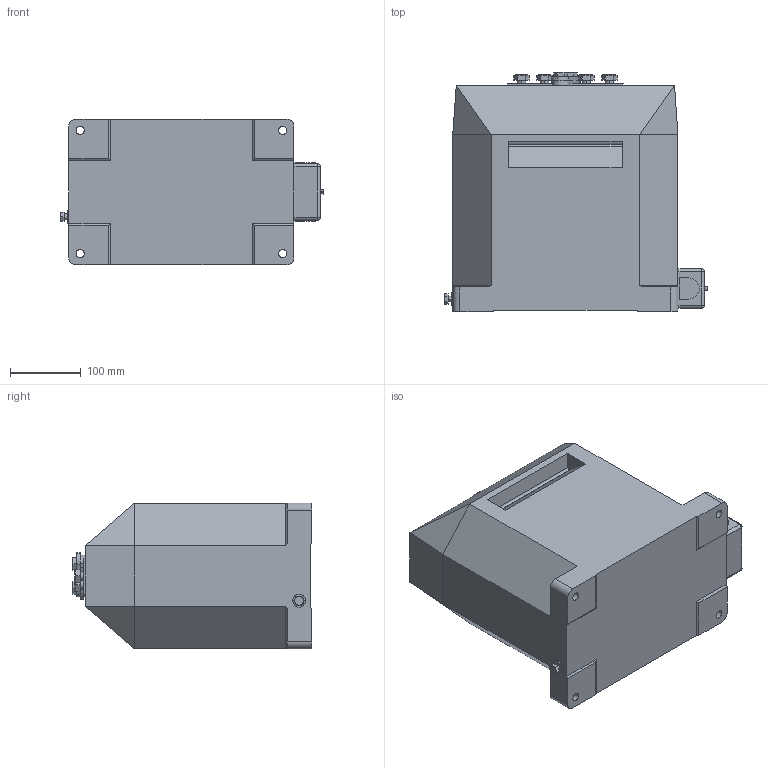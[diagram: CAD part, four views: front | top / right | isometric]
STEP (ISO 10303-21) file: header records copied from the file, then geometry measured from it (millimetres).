
FILE_DESCRIPTION (( 'STEP AP214' ), '1' );
FILE_NAME ('24305-021_AM-40a_2x5-300A_soros.STEP', '2025-10-03T13:45:06', ( '' ), ( '' ), 'SwSTEP 2.0', 'SolidWorks 2020', '' );
FILE_SCHEMA (( 'AUTOMOTIVE_DESIGN' ));
Length unit declared in the file: millimetre
Products named in the file (1): 24305-021_AM-40a_2x5-300A_soros
Bounding box: 372 x 338.4 x 206 mm (x, y, z)
Volume: 17825736.7 mm3; surface area: 459034.7 mm2
Topology: 1 solids, 2 shells, 358 faces, 943 edges, 598 vertices
Faces by surface type: plane 201, cylinder 123, cone 18, sphere 8, torus 4, bspline 4
Entity records: 13396 total; most frequent: CARTESIAN_POINT 2816, ORIENTED_EDGE 1870, DIRECTION 1820, EDGE_CURVE 935, AXIS2_PLACEMENT_3D 623, VERTEX_POINT 598, VECTOR 574, LINE 574
